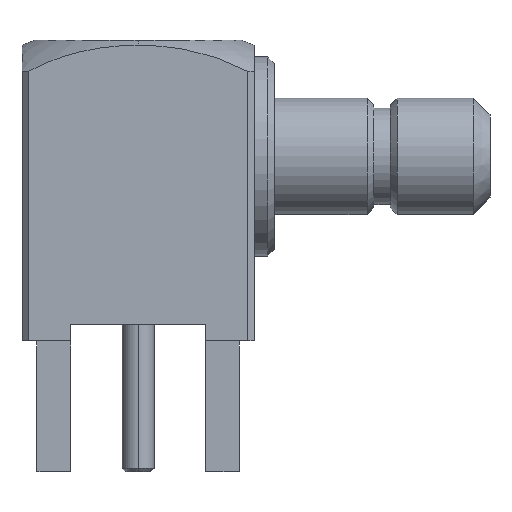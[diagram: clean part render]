
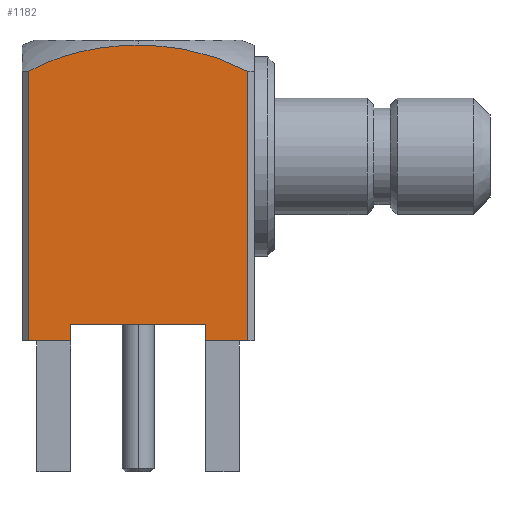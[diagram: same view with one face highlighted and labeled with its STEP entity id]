
A CAD part, left-side view. The second image highlights one B-rep face of the part: STEP entity #1182.
In plain terms, the highlighted planar face has unit normal (-1, 0, 0).
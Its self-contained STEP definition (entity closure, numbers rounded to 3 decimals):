
#279 = EDGE_CURVE ( 'NONE', #4183, #3443, #7144, .T. ) ;
#447 = CARTESIAN_POINT ( 'NONE',  ( -3.5, 2.03, 0.5 ) ) ;
#479 = EDGE_CURVE ( 'NONE', #5824, #4183, #911, .T. ) ;
#513 = CARTESIAN_POINT ( 'NONE',  ( -3.5, 1.976, 8.661 ) ) ;
#615 = DIRECTION ( 'NONE',  ( 1., 0., 0. ) ) ;
#911 = B_SPLINE_CURVE_WITH_KNOTS ( 'NONE', 3,
 ( #5641, #12753, #2710, #4895, #3752, #7140, #12485, #11458 ),
 .UNSPECIFIED., .F., .F.,
 ( 4, 2, 2, 4 ),
 ( 0.009, 0.011, 0.012, 0.013 ),
 .UNSPECIFIED. ) ;
#1182 = ADVANCED_FACE ( 'NONE', ( #6113 ), #11738, .F. ) ;
#1441 = EDGE_CURVE ( 'NONE', #3443, #12825, #10106, .T. ) ;
#1630 = EDGE_CURVE ( 'NONE', #9656, #5824, #12760, .T. ) ;
#1747 = CARTESIAN_POINT ( 'NONE',  ( -3.5, 3.5, 0. ) ) ;
#1772 = CARTESIAN_POINT ( 'NONE',  ( -3.5, -2.03, 0. ) ) ;
#2151 = DIRECTION ( 'NONE',  ( 0., 0., -1. ) ) ;
#2186 = VERTEX_POINT ( 'NONE', #447 ) ;
#2706 = DIRECTION ( 'NONE',  ( 0., 1., 0. ) ) ;
#2710 = CARTESIAN_POINT ( 'NONE',  ( -3.5, -2.253, 8.597 ) ) ;
#2961 = CARTESIAN_POINT ( 'NONE',  ( -3.5, 0., 8.91 ) ) ;
#3198 = LINE ( 'NONE', #7622, #9792 ) ;
#3254 = EDGE_CURVE ( 'NONE', #12825, #13571, #9943, .T. ) ;
#3299 = DIRECTION ( 'NONE',  ( 0., 1., 0. ) ) ;
#3384 = EDGE_CURVE ( 'NONE', #13435, #2186, #13399, .T. ) ;
#3388 = VECTOR ( 'NONE', #4821, 1000. ) ;
#3443 = VERTEX_POINT ( 'NONE', #8070 ) ;
#3562 = CARTESIAN_POINT ( 'NONE',  ( -3.5, 3.3, 0. ) ) ;
#3752 = CARTESIAN_POINT ( 'NONE',  ( -3.5, -1.141, 8.833 ) ) ;
#4183 = VERTEX_POINT ( 'NONE', #12944 ) ;
#4539 = DIRECTION ( 'NONE',  ( 0., -1., 0. ) ) ;
#4610 = CARTESIAN_POINT ( 'NONE',  ( -3.5, 3.5, 0. ) ) ;
#4718 = AXIS2_PLACEMENT_3D ( 'NONE', #8371, #615, #2706 ) ;
#4821 = DIRECTION ( 'NONE',  ( 0., 0., -1. ) ) ;
#4895 = CARTESIAN_POINT ( 'NONE',  ( -3.5, -1.421, 8.787 ) ) ;
#4925 = CARTESIAN_POINT ( 'NONE',  ( -3.5, 3.3, 8.121 ) ) ;
#5113 = ORIENTED_EDGE ( 'NONE', *, *, #3254, .T. ) ;
#5177 = CARTESIAN_POINT ( 'NONE',  ( -3.5, -3.3, 9.06 ) ) ;
#5214 = CARTESIAN_POINT ( 'NONE',  ( -3.5, 1.141, 8.852 ) ) ;
#5641 = CARTESIAN_POINT ( 'NONE',  ( -3.5, -3.3, 8.121 ) ) ;
#5824 = VERTEX_POINT ( 'NONE', #13003 ) ;
#5881 = EDGE_CURVE ( 'NONE', #2186, #13571, #3198, .T. ) ;
#6097 = ORIENTED_EDGE ( 'NONE', *, *, #9545, .T. ) ;
#6113 = FACE_OUTER_BOUND ( 'NONE', #8669, .T. ) ;
#6211 = VECTOR ( 'NONE', #8355, 1000. ) ;
#6304 = ORIENTED_EDGE ( 'NONE', *, *, #479, .T. ) ;
#6562 = VECTOR ( 'NONE', #2151, 1000. ) ;
#6641 = CARTESIAN_POINT ( 'NONE',  ( -3.5, -2.03, 0.5 ) ) ;
#6725 = VECTOR ( 'NONE', #3299, 1000. ) ;
#7140 = CARTESIAN_POINT ( 'NONE',  ( -3.5, -0.574, 8.895 ) ) ;
#7144 = B_SPLINE_CURVE_WITH_KNOTS ( 'NONE', 3,
 ( #2961, #11709, #5214, #513, #9471, #9605, #13734, #4925 ),
 .UNSPECIFIED., .F., .F.,
 ( 4, 2, 2, 4 ),
 ( 0.013, 0.014, 0.015, 0.016 ),
 .UNSPECIFIED. ) ;
#7477 = LINE ( 'NONE', #1747, #6211 ) ;
#7622 = CARTESIAN_POINT ( 'NONE',  ( -3.5, 2.03, 0.5 ) ) ;
#8070 = CARTESIAN_POINT ( 'NONE',  ( -3.5, 3.3, 8.121 ) ) ;
#8355 = DIRECTION ( 'NONE',  ( 0., -1., 0. ) ) ;
#8371 = CARTESIAN_POINT ( 'NONE',  ( -3.5, 3.5, 9.06 ) ) ;
#8600 = DIRECTION ( 'NONE',  ( 0., 0., 1. ) ) ;
#8669 = EDGE_LOOP ( 'NONE', ( #6304, #11703, #13310, #5113, #11656, #11426, #6097, #12329, #14269 ) ) ;
#9471 = CARTESIAN_POINT ( 'NONE',  ( -3.5, 2.254, 8.578 ) ) ;
#9545 = EDGE_CURVE ( 'NONE', #13435, #13352, #10284, .T. ) ;
#9605 = CARTESIAN_POINT ( 'NONE',  ( -3.5, 2.791, 8.377 ) ) ;
#9656 = VERTEX_POINT ( 'NONE', #11648 ) ;
#9792 = VECTOR ( 'NONE', #11995, 1000. ) ;
#9943 = LINE ( 'NONE', #4610, #13843 ) ;
#10106 = LINE ( 'NONE', #11258, #6562 ) ;
#10284 = LINE ( 'NONE', #12532, #3388 ) ;
#11258 = CARTESIAN_POINT ( 'NONE',  ( -3.5, 3.3, 9.06 ) ) ;
#11306 = EDGE_CURVE ( 'NONE', #13352, #9656, #7477, .T. ) ;
#11361 = CARTESIAN_POINT ( 'NONE',  ( -3.5, 2.03, 0. ) ) ;
#11426 = ORIENTED_EDGE ( 'NONE', *, *, #3384, .F. ) ;
#11458 = CARTESIAN_POINT ( 'NONE',  ( -3.5, 0., 8.91 ) ) ;
#11461 = VECTOR ( 'NONE', #8600, 1000. ) ;
#11648 = CARTESIAN_POINT ( 'NONE',  ( -3.5, -3.3, 0. ) ) ;
#11656 = ORIENTED_EDGE ( 'NONE', *, *, #5881, .F. ) ;
#11703 = ORIENTED_EDGE ( 'NONE', *, *, #279, .T. ) ;
#11709 = CARTESIAN_POINT ( 'NONE',  ( -3.5, 0.574, 8.91 ) ) ;
#11738 = PLANE ( 'NONE',  #4718 ) ;
#11995 = DIRECTION ( 'NONE',  ( 0., 0., -1. ) ) ;
#12311 = CARTESIAN_POINT ( 'NONE',  ( -3.5, -2.03, 0.5 ) ) ;
#12329 = ORIENTED_EDGE ( 'NONE', *, *, #11306, .T. ) ;
#12485 = CARTESIAN_POINT ( 'NONE',  ( -3.5, -0.287, 8.91 ) ) ;
#12532 = CARTESIAN_POINT ( 'NONE',  ( -3.5, -2.03, 0.5 ) ) ;
#12753 = CARTESIAN_POINT ( 'NONE',  ( -3.5, -2.801, 8.397 ) ) ;
#12760 = LINE ( 'NONE', #5177, #11461 ) ;
#12825 = VERTEX_POINT ( 'NONE', #3562 ) ;
#12944 = CARTESIAN_POINT ( 'NONE',  ( -3.5, 0., 8.91 ) ) ;
#13003 = CARTESIAN_POINT ( 'NONE',  ( -3.5, -3.3, 8.121 ) ) ;
#13310 = ORIENTED_EDGE ( 'NONE', *, *, #1441, .T. ) ;
#13352 = VERTEX_POINT ( 'NONE', #1772 ) ;
#13399 = LINE ( 'NONE', #6641, #6725 ) ;
#13435 = VERTEX_POINT ( 'NONE', #12311 ) ;
#13571 = VERTEX_POINT ( 'NONE', #11361 ) ;
#13734 = CARTESIAN_POINT ( 'NONE',  ( -3.5, 3.05, 8.259 ) ) ;
#13843 = VECTOR ( 'NONE', #4539, 1000. ) ;
#14269 = ORIENTED_EDGE ( 'NONE', *, *, #1630, .T. ) ;
